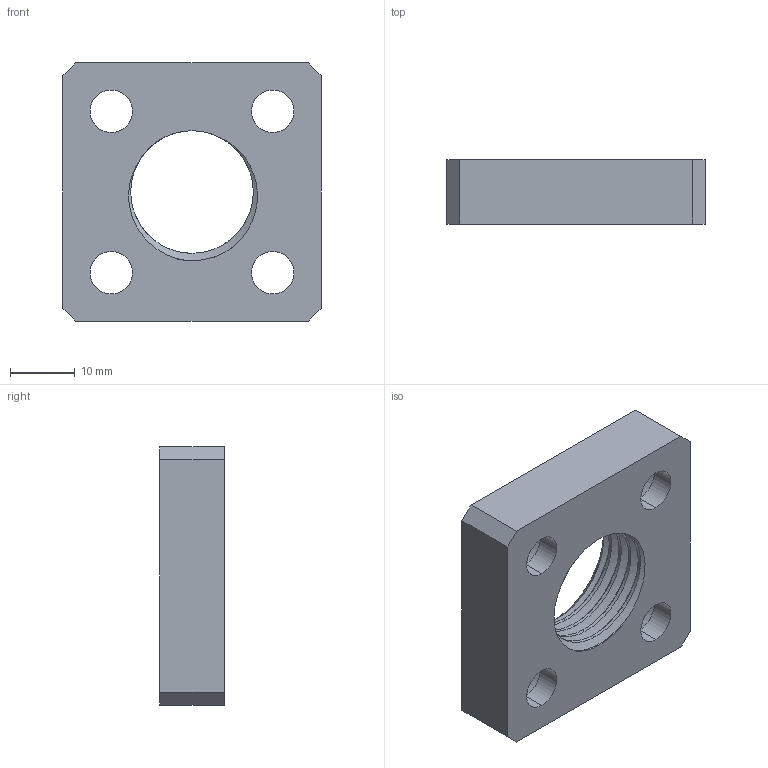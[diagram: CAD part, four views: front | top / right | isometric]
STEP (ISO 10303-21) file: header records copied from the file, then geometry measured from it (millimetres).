
FILE_DESCRIPTION((''),'2;1');
FILE_NAME('SCREW_ADAPTERPLATE_V2','2021-06-30T',('Tomáš'),(''),'CREO PARAMETRIC BY PTC INC, 2016050','CREO PARAMETRIC BY PTC INC, 2016050','');
FILE_SCHEMA(('CONFIG_CONTROL_DESIGN'));
Length unit declared in the file: millimetre
Products named in the file (1): SCREW_ADAPTERPLATE_V2
Bounding box: 40 x 10 x 40 mm (x, y, z)
Volume: 9808.6 mm3; surface area: 5968.4 mm2
Topology: 1 solids, 1 shells, 54 faces, 135 edges, 87 vertices
Faces by surface type: cylinder 26, plane 14, cone 11, bspline 3
Entity records: 5225 total; most frequent: CARTESIAN_POINT 3891, ORIENTED_EDGE 270, DIRECTION 258, EDGE_CURVE 135, AXIS2_PLACEMENT_3D 99, VERTEX_POINT 87, EDGE_LOOP 68, VECTOR 60
